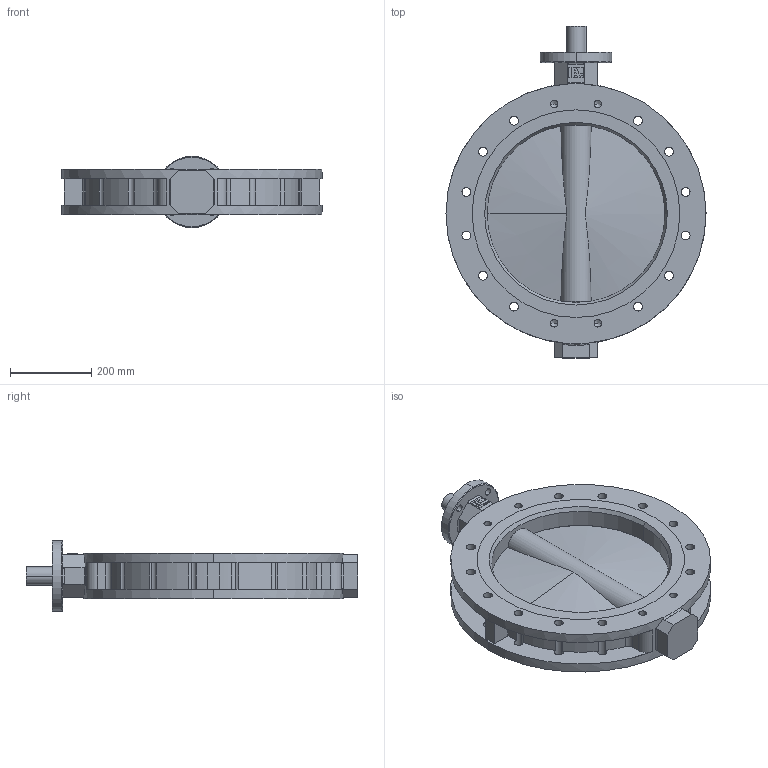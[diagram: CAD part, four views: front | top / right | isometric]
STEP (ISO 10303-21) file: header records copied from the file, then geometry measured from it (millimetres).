
FILE_DESCRIPTION (( 'STEP AP214' ), '1' );
FILE_NAME ('D40450._1.step', '2013-07-30T15:15:54', ( 'mbuehlmann' ), ( '' ), 'SwSTEP 2.0', 'SolidWorks 2012', '' );
FILE_SCHEMA (( 'AUTOMOTIVE_DESIGN' ));
Length unit declared in the file: millimetre
Products named in the file (6): ia-Keil_ia-Keil500; ia-Logo26; ia-scheibe250_ia-scheibe450; ia-Dichtungbasic_Dichtung450; BO.D40450._1; D40450._1
Assembly tree (5 placements, depth 2):
  D40450._1
    BO.D40450._1
    ia-Dichtungbasic_Dichtung450
    ia-scheibe250_ia-scheibe450
    ia-Logo26
    ia-Keil_ia-Keil500
Bounding box: 640 x 817 x 175 mm (x, y, z)
Volume: 19813093.7 mm3; surface area: 1766698.9 mm2
Topology: 5 solids, 5 shells, 221 faces, 656 edges, 414 vertices
Faces by surface type: cylinder 101, plane 70, cone 32, torus 16, sphere 2
Entity records: 8231 total; most frequent: CARTESIAN_POINT 1767, DIRECTION 1325, ORIENTED_EDGE 1274, EDGE_CURVE 637, AXIS2_PLACEMENT_3D 515, VERTEX_POINT 413, LINE 295, VECTOR 295
